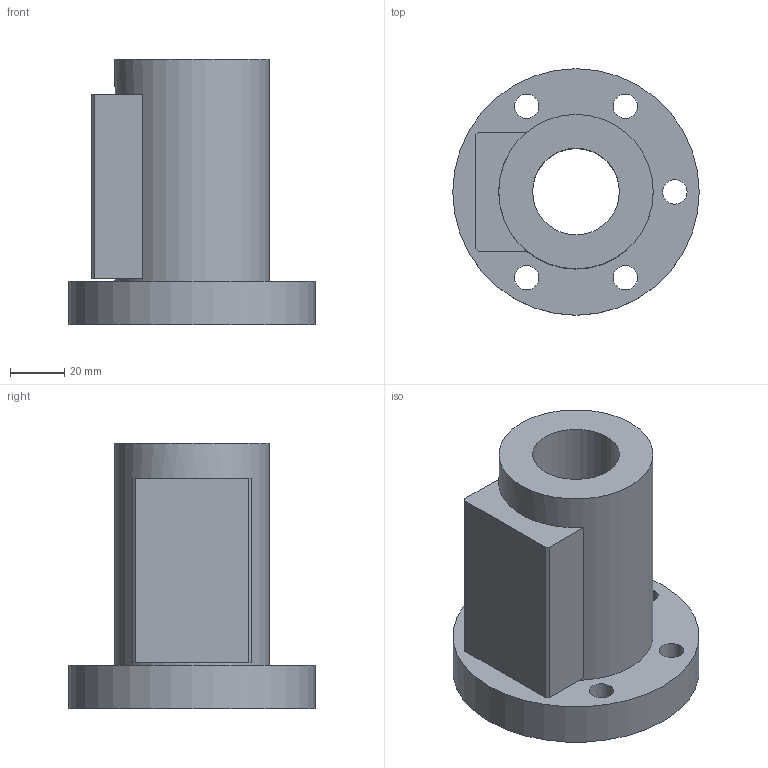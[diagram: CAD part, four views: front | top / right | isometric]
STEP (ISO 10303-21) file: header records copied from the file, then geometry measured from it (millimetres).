
FILE_DESCRIPTION(/* description */ (''),/* implementation_level */ '2;1');
FILE_NAME(/* name */ '32-10B2',/* time_stamp */ '2006-07-31T09:57:19+08:00',/* author */ (''),/* organization */ (''),/* preprocessor_version */ 'ST-DEVELOPER v9',/* originating_system */ 'UGS - NX 4.0',/* authorisation */ '');
FILE_SCHEMA (('CONFIG_CONTROL_DESIGN'));
Length unit declared in the file: millimetre
Products named in the file (1): 32-10B2
Bounding box: 91 x 91 x 98 mm (x, y, z)
Volume: 260385.6 mm3; surface area: 45889 mm2
Topology: 1 solids, 1 shells, 28 faces, 61 edges, 42 vertices
Faces by surface type: plane 15, cylinder 13
Full cylindrical faces by diameter (mm): 9 x5, 14 x5, 32 x1, 57 x1, 91 x1
Entity records: 794 total; most frequent: DIRECTION 130, CARTESIAN_POINT 111, ORIENTED_EDGE 88, EDGE_LOOP 60, AXIS2_PLACEMENT_3D 57, FACE_BOUND 45, EDGE_CURVE 44, VERTEX_POINT 38
